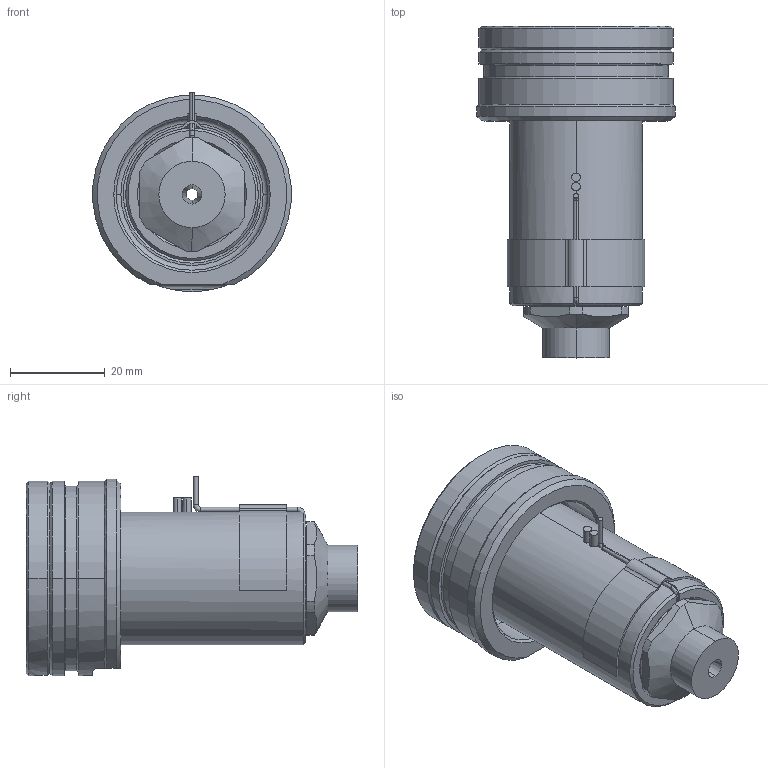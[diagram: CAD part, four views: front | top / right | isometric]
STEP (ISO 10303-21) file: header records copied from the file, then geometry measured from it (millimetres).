
FILE_DESCRIPTION((''),'2;1');
FILE_NAME('EO10_VG-ST_STD_050_SW','2024-02-19T12:45:18',('sundharh'),(''),'CREO PARAMETRIC BY PTC INC, 2023154','CREO PARAMETRIC BY PTC INC, 2023154','');
FILE_SCHEMA(('CONFIG_CONTROL_DESIGN'));
Length unit declared in the file: millimetre
Products named in the file (1): EO10_VG-ST_STD_050_SW
Bounding box: 41.85 x 70 x 42.02 mm (x, y, z)
Volume: 45811.7 mm3; surface area: 14136 mm2
Topology: 1 solids, 1 shells, 165 faces, 424 edges, 263 vertices
Faces by surface type: cylinder 63, plane 45, cone 33, torus 17, bspline 5, sphere 2
Entity records: 5728 total; most frequent: CARTESIAN_POINT 1624, DIRECTION 895, ORIENTED_EDGE 844, EDGE_CURVE 422, AXIS2_PLACEMENT_3D 369, VERTEX_POINT 263, CIRCLE 209, EDGE_LOOP 179
